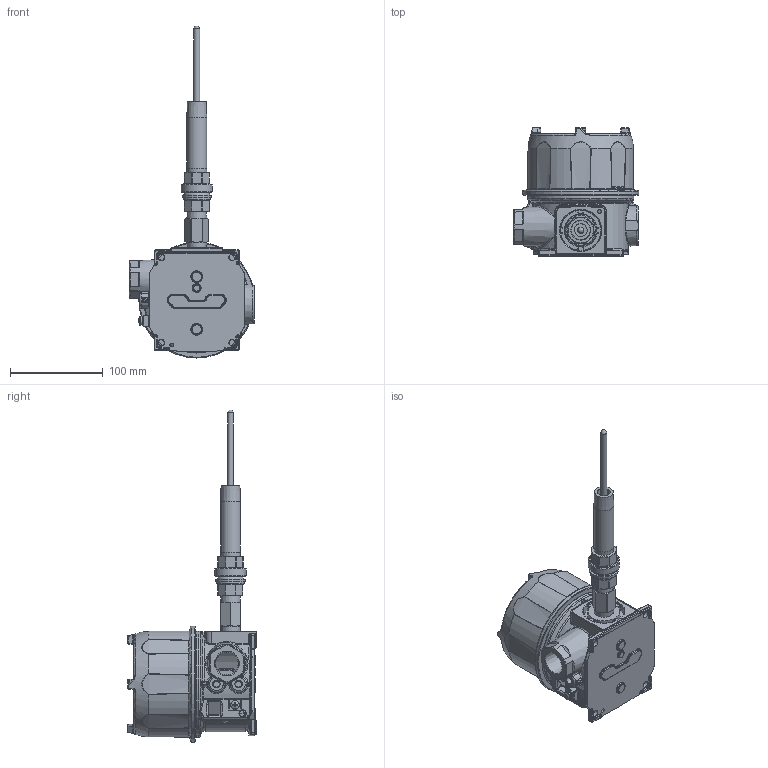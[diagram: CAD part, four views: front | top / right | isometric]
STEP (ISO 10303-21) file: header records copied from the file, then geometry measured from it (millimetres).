
FILE_DESCRIPTION (( 'STEP AP214' ), '1' );
FILE_NAME ('1X-TTC_ALLMODELS_V4.STEP', '2025-03-13T16:54:46', ( '' ), ( '' ), 'SwSTEP 2.0', 'SolidWorks 2023', '' );
FILE_SCHEMA (( 'AUTOMOTIVE_DESIGN' ));
Length unit declared in the file: inch
Products named in the file (1): 1X-TTC_ALLMODELS_V4
Bounding box: 135 x 138.46 x 357.62 mm (x, y, z)
Surface area: 121287.4 mm2 (no closed solid volume)
Topology: 0 solids, 26 shells, 1558 faces, 4973 edges, 3205 vertices
Faces by surface type: plane 589, bspline 414, cylinder 220, torus 175, cone 125, sphere 35
Full cylindrical faces by diameter (mm): 3.3 x1, 6.426 x1, 9.5 x1, 13.868 x1, 21.463 x1, 29.591 x1, 31.496 x1, 33.782 x1, 70.104 x1, 114.046 x1, 124.714 x1
Entity records: 77484 total; most frequent: CARTESIAN_POINT 38627, ORIENTED_EDGE 8007, DIRECTION 6972, EDGE_CURVE 4828, VERTEX_POINT 3177, VECTOR 2446, LINE 2446, AXIS2_PLACEMENT_3D 2263
